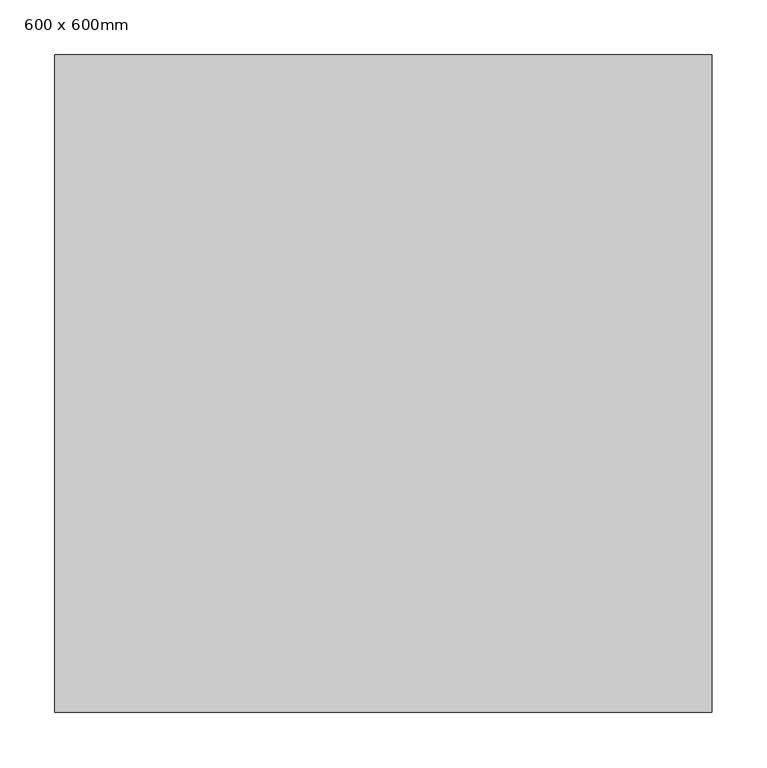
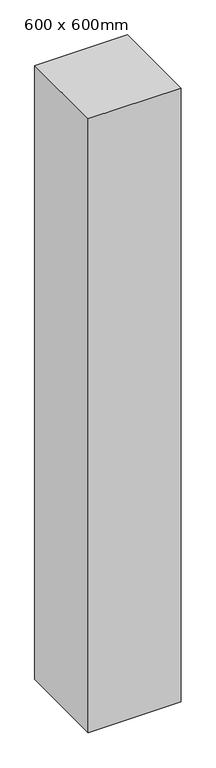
"""IFC4 building model written with IfcOpenShell, lengths in millimetres: column geometry, 矩形柱 : 600 x 600mm."""

from ifc_helpers import new_model, si_unit, origin, origin_with_axes, place, context, project, spatial, polyline, outline, extrude, source, transform, mapped, element, save


def column_600_x_600mm_c863cf98(model_context):
    return source(origin(), model_context, "Body", "SweptSolid", [
        extrude(outline(polyline([(300.0, -300.0), (-300.0, -300.0), (-300.0, 300.0), (300.0, 300.0), (300.0, -300.0)])), origin_with_axes(), (0.0, 0.0, 1.0), 4200.0),
    ])


if __name__ == "__main__":
    model = new_model("IFC4")
    model_context = context("Model", 3, world=origin())
    ifc_project = project(units=[si_unit("LENGTHUNIT", "METRE", prefix="MILLI")], contexts=[model_context])
    site = spatial("IfcSite", under=ifc_project)
    building = spatial("IfcBuilding", under=site)
    placement = place(None, origin())
    column_600_x_600mm_shape = column_600_x_600mm_c863cf98(model_context)
    element("IfcColumn", 1, ObjectType="矩形柱 : 600 x 600mm", at=placement, inside=building, context=model_context, shape_type="MappedRepresentation", body=[
        mapped(column_600_x_600mm_shape, transform((0.0, 0.0, 0.0), x_axis=(1.0, 0.0, 0.0), y_axis=(0.0, 1.0, 0.0), z_axis=(0.0, 0.0, 1.0))),
    ])
    save(model, "model.ifc")
